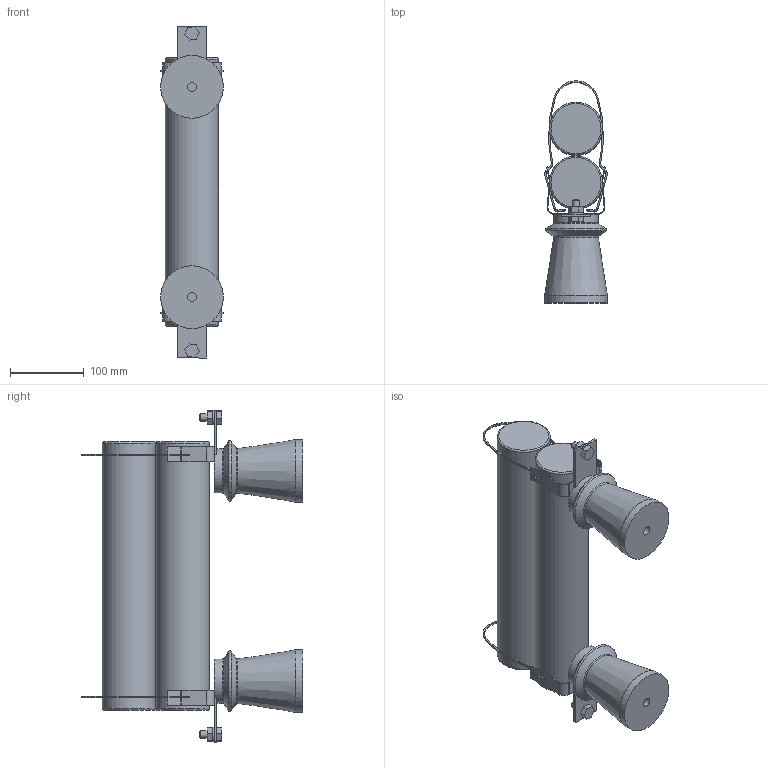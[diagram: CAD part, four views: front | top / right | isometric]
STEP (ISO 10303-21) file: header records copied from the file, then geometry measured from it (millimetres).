
FILE_DESCRIPTION (( 'STEP AP214' ), '1' );
FILE_NAME ('Ïðåäîõðàíèòåëü ÏÊÒ-103-6 Ó3.STEP', '2023-03-06T11:10:42', ( '' ), ( '' ), 'SwSTEP 2.0', 'SolidWorks 2018', '' );
FILE_SCHEMA (( 'AUTOMOTIVE_DESIGN' ));
Length unit declared in the file: millimetre
Products named in the file (1): Ïðåäîõðàíèòåëü ÏÊÒ-103-6 Ó3
Bounding box: 85 x 300.89 x 450 mm (x, y, z)
Volume: 3990620.5 mm3; surface area: 287972.5 mm2
Topology: 1 solids, 1 shells, 230 faces, 646 edges, 424 vertices
Faces by surface type: plane 146, cylinder 64, torus 12, cone 8
Full cylindrical faces by diameter (mm): 10 x2, 12 x2, 20 x2, 60 x2, 72 x2, 85 x2
Entity records: 7080 total; most frequent: CARTESIAN_POINT 1217, DIRECTION 1216, ORIENTED_EDGE 1172, EDGE_CURVE 586, LINE 418, VECTOR 418, VERTEX_POINT 400, AXIS2_PLACEMENT_3D 399
